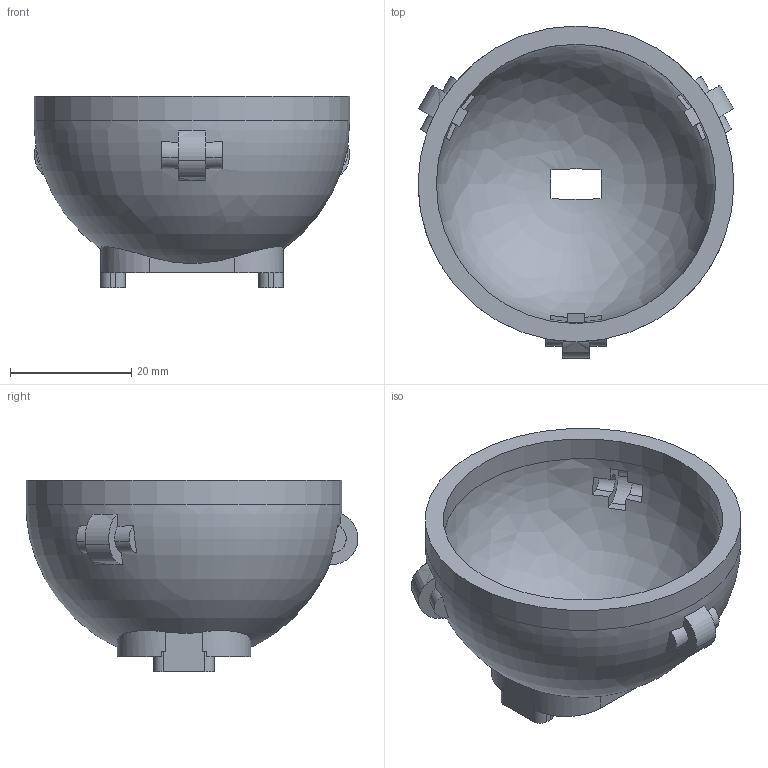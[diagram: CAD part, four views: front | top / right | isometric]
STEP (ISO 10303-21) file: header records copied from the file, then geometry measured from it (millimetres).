
FILE_DESCRIPTION(('Open CASCADE Model'),'2;1');
FILE_NAME('Open CASCADE Shape Model','2026-06-04T07:57:13',('Author'),( 'Open CASCADE'),'Open CASCADE STEP processor 7.6','Open CASCADE 7.6' ,'Unknown');
FILE_SCHEMA(('AP242_MANAGED_MODEL_BASED_3D_ENGINEERING_MIM_LF. {1 0 10303 442 1 1 4 }'));
Length unit declared in the file: millimetre
Products named in the file (1): Open CASCADE STEP translator 7.6 1
Bounding box: 52 x 54.65 x 31.6 mm (x, y, z)
Volume: 13516 mm3; surface area: 10333.1 mm2
Topology: 1 solids, 1 shells, 140 faces, 392 edges, 260 vertices
Faces by surface type: plane 74, extrusion 36, cylinder 22, bspline 4, revolution 2, cone 2
Full cylindrical faces by diameter (mm): 2.05 x2, 46 x1, 52 x1
Entity records: 19450 total; most frequent: CARTESIAN_POINT 12029, DIRECTION 1248, ORIENTED_EDGE 780, PCURVE 780, DEFINITIONAL_REPRESENTATION 780, VECTOR 658, LINE 622, EDGE_CURVE 390
